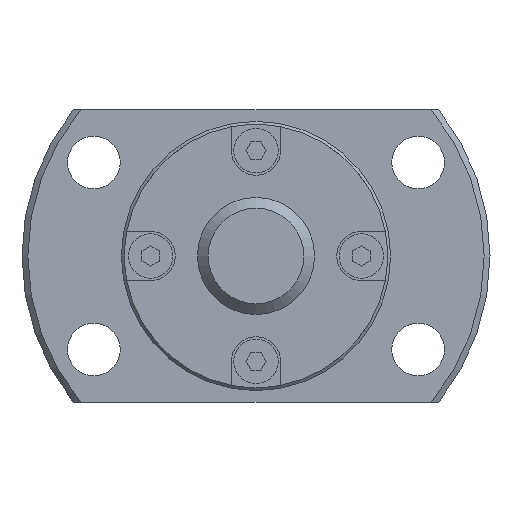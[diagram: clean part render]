
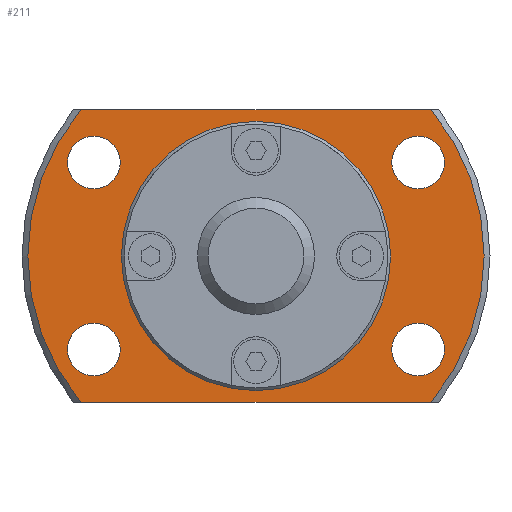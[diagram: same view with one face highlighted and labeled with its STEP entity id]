
A CAD part, left-side view. The second image highlights one B-rep face of the part: STEP entity #211.
In plain terms, the highlighted planar face has unit normal (-1, 0, 0).
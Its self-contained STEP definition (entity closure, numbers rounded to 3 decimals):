
#211 = ADVANCED_FACE( '', ( #414, #415, #416, #417, #418, #419 ), #420, .F. );
#414 = FACE_OUTER_BOUND( '', #747, .T. );
#415 = FACE_BOUND( '', #748, .T. );
#416 = FACE_BOUND( '', #749, .T. );
#417 = FACE_BOUND( '', #750, .T. );
#418 = FACE_BOUND( '', #751, .T. );
#419 = FACE_BOUND( '', #752, .T. );
#420 = PLANE( '', #753 );
#747 = EDGE_LOOP( '', ( #1283, #1284, #1285, #1286 ) );
#748 = EDGE_LOOP( '', ( #1287 ) );
#749 = EDGE_LOOP( '', ( #1288 ) );
#750 = EDGE_LOOP( '', ( #1289 ) );
#751 = EDGE_LOOP( '', ( #1290 ) );
#752 = EDGE_LOOP( '', ( #1291 ) );
#753 = AXIS2_PLACEMENT_3D( '', #1292, #1293, #1294 );
#1283 = ORIENTED_EDGE( '', *, *, #2014, .F. );
#1284 = ORIENTED_EDGE( '', *, *, #2147, .T. );
#1285 = ORIENTED_EDGE( '', *, *, #2152, .F. );
#1286 = ORIENTED_EDGE( '', *, *, #2008, .T. );
#1287 = ORIENTED_EDGE( '', *, *, #2138, .F. );
#1288 = ORIENTED_EDGE( '', *, *, #2140, .F. );
#1289 = ORIENTED_EDGE( '', *, *, #2142, .F. );
#1290 = ORIENTED_EDGE( '', *, *, #2144, .F. );
#1291 = ORIENTED_EDGE( '', *, *, #2153, .T. );
#1292 = CARTESIAN_POINT( '', ( 13., 11.25, 0. ) );
#1293 = DIRECTION( '', ( 1., 0., 0. ) );
#1294 = DIRECTION( '', ( 0., 0., -1. ) );
#2008 = EDGE_CURVE( '', #2323, #2321, #2324, .T. );
#2014 = EDGE_CURVE( '', #2334, #2321, #2335, .T. );
#2138 = EDGE_CURVE( '', #2566, #2566, #2567, .F. );
#2140 = EDGE_CURVE( '', #2570, #2570, #2571, .F. );
#2142 = EDGE_CURVE( '', #2574, #2574, #2575, .F. );
#2144 = EDGE_CURVE( '', #2578, #2578, #2579, .F. );
#2147 = EDGE_CURVE( '', #2334, #2583, #2585, .T. );
#2152 = EDGE_CURVE( '', #2323, #2583, #2593, .T. );
#2153 = EDGE_CURVE( '', #2594, #2594, #2595, .T. );
#2321 = VERTEX_POINT( '', #2846 );
#2323 = VERTEX_POINT( '', #2851 );
#2324 = LINE( '', #2852, #2853 );
#2334 = VERTEX_POINT( '', #2874 );
#2335 = CIRCLE( '', #2875, 19.5 );
#2566 = VERTEX_POINT( '', #3197 );
#2567 = CIRCLE( '', #3198, 2.25 );
#2570 = VERTEX_POINT( '', #3201 );
#2571 = CIRCLE( '', #3202, 2.25 );
#2574 = VERTEX_POINT( '', #3205 );
#2575 = CIRCLE( '', #3206, 2.25 );
#2578 = VERTEX_POINT( '', #3209 );
#2579 = CIRCLE( '', #3210, 2.25 );
#2583 = VERTEX_POINT( '', #3215 );
#2585 = LINE( '', #3220, #3221 );
#2593 = CIRCLE( '', #3237, 19.5 );
#2594 = VERTEX_POINT( '', #3238 );
#2595 = CIRCLE( '', #3239, 11.25 );
#2846 = CARTESIAN_POINT( '', ( 13., 14.967, 12.5 ) );
#2851 = CARTESIAN_POINT( '', ( 13., -14.967, 12.5 ) );
#2852 = CARTESIAN_POINT( '', ( 13., 11.25, 12.5 ) );
#2853 = VECTOR( '', #3613, 1000. );
#2874 = CARTESIAN_POINT( '', ( 13., 14.967, -12.5 ) );
#2875 = AXIS2_PLACEMENT_3D( '', #3616, #3617, #3618 );
#3197 = CARTESIAN_POINT( '', ( 13., -13.856, -10.25 ) );
#3198 = AXIS2_PLACEMENT_3D( '', #3809, #3810, #3811 );
#3201 = CARTESIAN_POINT( '', ( 13., -13.856, 5.75 ) );
#3202 = AXIS2_PLACEMENT_3D( '', #3815, #3816, #3817 );
#3205 = CARTESIAN_POINT( '', ( 13., 13.856, -10.25 ) );
#3206 = AXIS2_PLACEMENT_3D( '', #3821, #3822, #3823 );
#3209 = CARTESIAN_POINT( '', ( 13., 13.856, 5.75 ) );
#3210 = AXIS2_PLACEMENT_3D( '', #3827, #3828, #3829 );
#3215 = CARTESIAN_POINT( '', ( 13., -14.967, -12.5 ) );
#3220 = CARTESIAN_POINT( '', ( 13., 11.25, -12.5 ) );
#3221 = VECTOR( '', #3831, 1000. );
#3237 = AXIS2_PLACEMENT_3D( '', #3834, #3835, #3836 );
#3238 = CARTESIAN_POINT( '', ( 13., 0., -11.25 ) );
#3239 = AXIS2_PLACEMENT_3D( '', #3837, #3838, #3839 );
#3613 = DIRECTION( '', ( 0., 1., 0. ) );
#3616 = CARTESIAN_POINT( '', ( 13., 0., 0. ) );
#3617 = DIRECTION( '', ( 1., 0., 0. ) );
#3618 = DIRECTION( '', ( 0., 0., -1. ) );
#3809 = CARTESIAN_POINT( '', ( 13., -13.856, -8. ) );
#3810 = DIRECTION( '', ( 1., 0., 0. ) );
#3811 = DIRECTION( '', ( 0., 0., -1. ) );
#3815 = CARTESIAN_POINT( '', ( 13., -13.856, 8. ) );
#3816 = DIRECTION( '', ( 1., 0., 0. ) );
#3817 = DIRECTION( '', ( 0., 0., -1. ) );
#3821 = CARTESIAN_POINT( '', ( 13., 13.856, -8. ) );
#3822 = DIRECTION( '', ( 1., 0., 0. ) );
#3823 = DIRECTION( '', ( 0., 0., -1. ) );
#3827 = CARTESIAN_POINT( '', ( 13., 13.856, 8. ) );
#3828 = DIRECTION( '', ( 1., 0., 0. ) );
#3829 = DIRECTION( '', ( 0., 0., -1. ) );
#3831 = DIRECTION( '', ( 0., -1., 0. ) );
#3834 = CARTESIAN_POINT( '', ( 13., 0., 0. ) );
#3835 = DIRECTION( '', ( 1., 0., 0. ) );
#3836 = DIRECTION( '', ( 0., 0., -1. ) );
#3837 = CARTESIAN_POINT( '', ( 13., 0., 0. ) );
#3838 = DIRECTION( '', ( 1., 0., 0. ) );
#3839 = DIRECTION( '', ( 0., 0., -1. ) );
